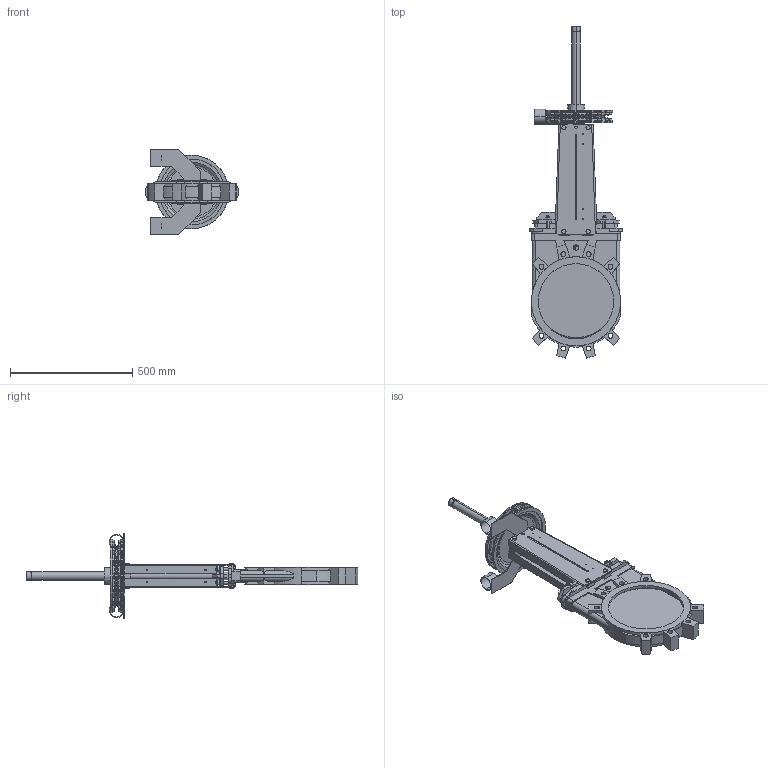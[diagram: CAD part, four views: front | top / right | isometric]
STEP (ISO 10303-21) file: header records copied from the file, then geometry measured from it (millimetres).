
FILE_DESCRIPTION (( 'STEP AP203' ), '1' );
FILE_NAME ('VG C DN300.STEP', '2010-01-28T05:02:00', ( 'farex' ), ( '' ), 'SwSTEP 2.0', 'SolidWorks 2009', '' );
FILE_SCHEMA (( 'CONFIG_CONTROL_DESIGN' ));
Products named in the file (1): VG C DN300
Bounding box: 380 x 1359.55 x 350 mm (x, y, z)
Volume: 10019973.1 mm3; surface area: 1578730.1 mm2
Topology: 5 solids, 10 shells, 1080 faces, 2884 edges, 1883 vertices
Faces by surface type: plane 466, cylinder 275, bspline 196, cone 123, torus 20
Entity records: 43143 total; most frequent: CARTESIAN_POINT 17150, ORIENTED_EDGE 5768, DIRECTION 4915, EDGE_CURVE 2884, VERTEX_POINT 1883, AXIS2_PLACEMENT_3D 1763, VECTOR 1389, LINE 1389
